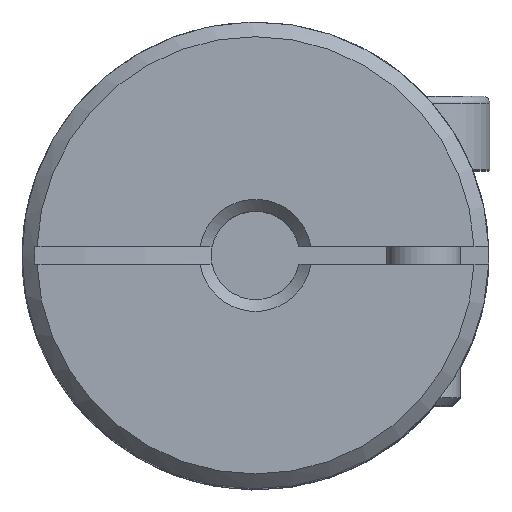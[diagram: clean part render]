
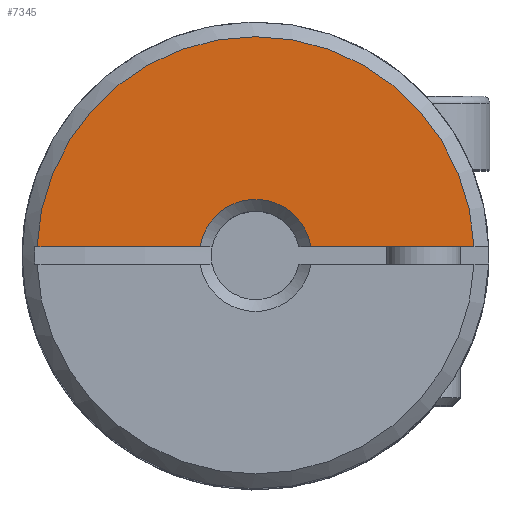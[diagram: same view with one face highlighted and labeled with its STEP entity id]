
A CAD part, top view. The second image highlights one B-rep face of the part: STEP entity #7345.
In plain terms, the highlighted planar face has unit normal (0, 0, 1).
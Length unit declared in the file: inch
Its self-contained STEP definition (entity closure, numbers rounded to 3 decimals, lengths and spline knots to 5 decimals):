
#3753=DIRECTION('',(-1.,0.,0.));
#3754=VECTOR('',#3753,0.21783);
#3755=CARTESIAN_POINT('',(0.29169,0.01181,0.5));
#3756=LINE('',#3755,#3754);
#3869=CARTESIAN_POINT('',(0.29169,0.01181,0.5));
#3966=CARTESIAN_POINT('',(0.,0.,0.5));
#3967=DIRECTION('',(0.,0.,-1.));
#3968=DIRECTION('',(-0.987,0.158,0.));
#3969=AXIS2_PLACEMENT_3D('',#3966,#3967,#3968);
#3971=CARTESIAN_POINT('',(0.,0.,0.5));
#3972=DIRECTION('',(0.,0.,1.));
#3973=DIRECTION('',(0.999,0.04,0.));
#3974=AXIS2_PLACEMENT_3D('',#3971,#3972,#3973);
#3988=DIRECTION('',(-1.,0.,0.));
#3989=VECTOR('',#3988,0.21783);
#3990=CARTESIAN_POINT('',(-0.07387,0.01181,0.5));
#3991=LINE('',#3990,#3989);
#4365=VERTEX_POINT('',#3869);
#4386=CARTESIAN_POINT('',(0.07386,0.01181,0.5));
#4387=VERTEX_POINT('',#4386);
#4414=CARTESIAN_POINT('',(-0.29169,0.0118,0.5));
#4415=VERTEX_POINT('',#4414);
#4442=CARTESIAN_POINT('',(-0.07387,0.0118,0.5));
#4443=VERTEX_POINT('',#4442);
#7332=CARTESIAN_POINT('',(0.,0.,0.5));
#7333=DIRECTION('',(0.,0.,1.));
#7334=DIRECTION('',(1.,0.,0.));
#7335=AXIS2_PLACEMENT_3D('',#7332,#7333,#7334);
#7336=PLANE('',#7335);
#7337=ORIENTED_EDGE('',*,*,#7044,.T.);
#7339=ORIENTED_EDGE('',*,*,#7338,.F.);
#7341=ORIENTED_EDGE('',*,*,#7340,.T.);
#7342=ORIENTED_EDGE('',*,*,#7201,.F.);
#7343=EDGE_LOOP('',(#7337,#7339,#7341,#7342));
#7344=FACE_OUTER_BOUND('',#7343,.F.);
#3970=CIRCLE('',#3969,0.0748);
#3975=CIRCLE('',#3974,0.29193);
#7044=EDGE_CURVE('',#4365,#4387,#3756,.T.);
#7201=EDGE_CURVE('',#4365,#4415,#3975,.T.);
#7338=EDGE_CURVE('',#4443,#4387,#3970,.T.);
#7340=EDGE_CURVE('',#4443,#4415,#3991,.T.);
#7345=ADVANCED_FACE('',(#7344),#7336,.T.);
